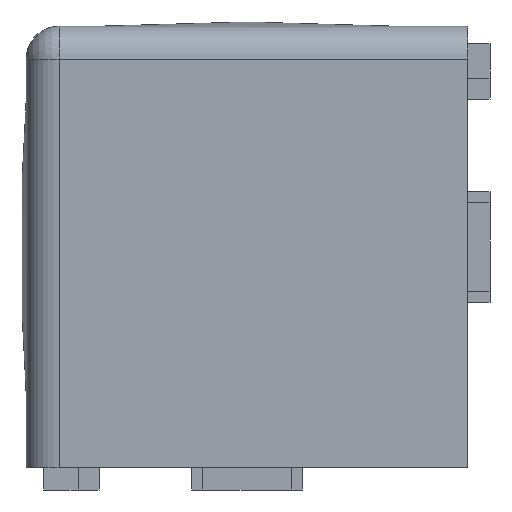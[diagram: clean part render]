
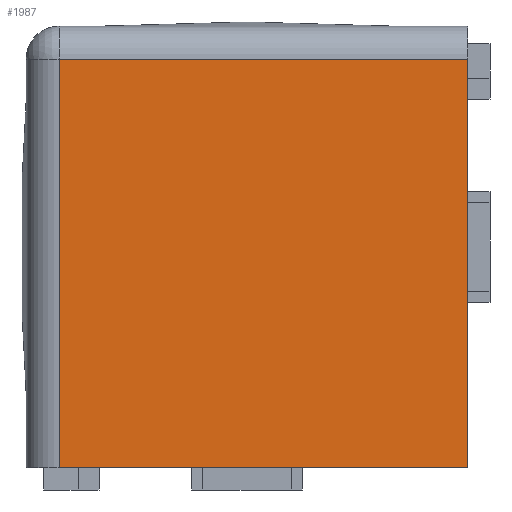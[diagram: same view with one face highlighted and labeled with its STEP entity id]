
A CAD part, left-side view. The second image highlights one B-rep face of the part: STEP entity #1987.
In plain terms, the highlighted planar face has unit normal (-1, 0, 0) as drawn and (0, 0, -1) by its records, which use the part's own axes.
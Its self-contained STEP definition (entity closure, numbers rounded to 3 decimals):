
#248=LINE('',#4126,#429);
#249=LINE('',#4131,#430);
#250=LINE('',#4134,#431);
#251=LINE('',#4135,#432);
#429=VECTOR('',#2719,1000.);
#430=VECTOR('',#2726,1000.);
#431=VECTOR('',#2729,1000.);
#432=VECTOR('',#2730,1000.);
#624=FACE_OUTER_BOUND('',#738,.T.);
#738=EDGE_LOOP('',(#1740,#1741,#1742,#1743));
#953=VERTEX_POINT('',#4086);
#965=VERTEX_POINT('',#4125);
#966=VERTEX_POINT('',#4129);
#967=VERTEX_POINT('',#4133);
#1242=EDGE_CURVE('',#965,#953,#248,.T.);
#1245=EDGE_CURVE('',#953,#966,#249,.T.);
#1246=EDGE_CURVE('',#966,#967,#250,.T.);
#1247=EDGE_CURVE('',#967,#965,#251,.T.);
#1740=ORIENTED_EDGE('',*,*,#1245,.T.);
#1741=ORIENTED_EDGE('',*,*,#1246,.T.);
#1742=ORIENTED_EDGE('',*,*,#1247,.T.);
#1743=ORIENTED_EDGE('',*,*,#1242,.T.);
#1878=PLANE('',#2191);
#1987=ADVANCED_FACE('',(#624),#1878,.T.);
#2191=AXIS2_PLACEMENT_3D('',#4132,#2727,#2728);
#2719=DIRECTION('',(0.,1.,0.));
#2726=DIRECTION('',(1.,0.,0.));
#2727=DIRECTION('center_axis',(0.,0.,-1.));
#2728=DIRECTION('ref_axis',(0.,-1.,0.));
#2729=DIRECTION('',(0.,-1.,0.));
#2730=DIRECTION('',(-1.,0.,0.));
#4086=CARTESIAN_POINT('',(-37.,17.,-20.));
#4125=CARTESIAN_POINT('',(-37.,-20.,-20.));
#4126=CARTESIAN_POINT('',(-37.,-20.,-20.));
#4129=CARTESIAN_POINT('',(0.,17.,-20.));
#4131=CARTESIAN_POINT('',(-40.,17.,-20.));
#4132=CARTESIAN_POINT('Origin',(-40.,-20.,-20.));
#4133=CARTESIAN_POINT('',(0.,-20.,-20.));
#4134=CARTESIAN_POINT('',(0.,-20.,-20.));
#4135=CARTESIAN_POINT('',(-40.,-20.,-20.));
